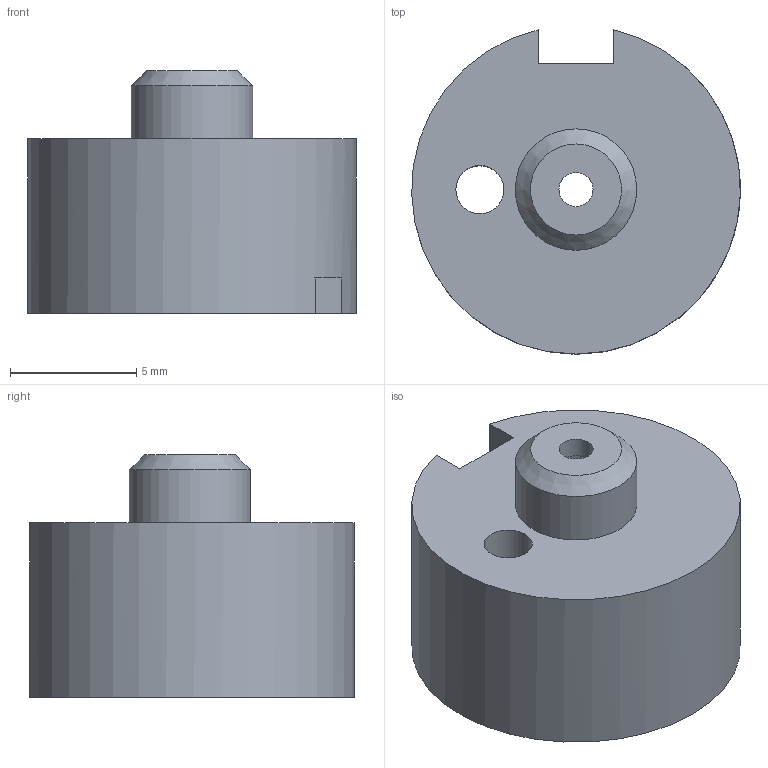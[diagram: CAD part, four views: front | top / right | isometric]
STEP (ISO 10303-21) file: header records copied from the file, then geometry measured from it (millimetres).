
FILE_DESCRIPTION(('Open CASCADE Model'),'2;1');
FILE_NAME('Open CASCADE Shape Model','2026-11-11T16:54:55',('Author'),( 'Open CASCADE'),'Open CASCADE STEP processor 7.9','Open CASCADE 7.9' ,'Unknown');
FILE_SCHEMA(('AUTOMOTIVE_DESIGN { 1 0 10303 214 1 1 1 1 }'));
Length unit declared in the file: millimetre
Products named in the file (1): Open CASCADE STEP translator 7.9 11
Bounding box: 12.99 x 12.82 x 9.6 mm (x, y, z)
Volume: 834.4 mm3; surface area: 741.9 mm2
Topology: 1 solids, 1 shells, 33 faces, 77 edges, 51 vertices
Faces by surface type: plane 27, cylinder 5, cone 1
Full cylindrical faces by diameter (mm): 1.35 x1, 1.9 x1, 2.6 x1, 4.8 x1
Entity records: 1919 total; most frequent: CARTESIAN_POINT 415, DIRECTION 248, ORIENTED_EDGE 154, PCURVE 154, DEFINITIONAL_REPRESENTATION 154, LINE 149, VECTOR 149, EDGE_CURVE 77
